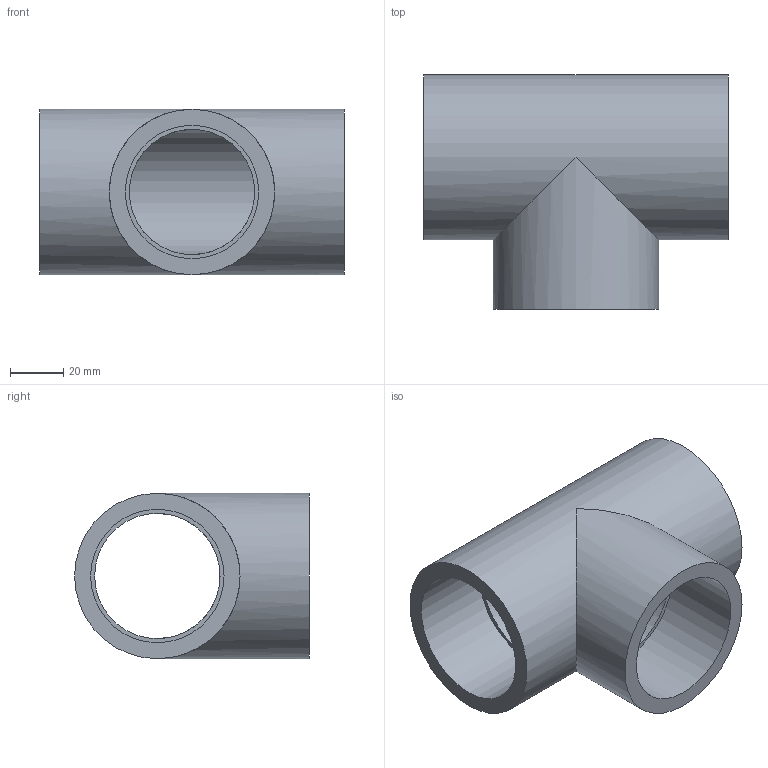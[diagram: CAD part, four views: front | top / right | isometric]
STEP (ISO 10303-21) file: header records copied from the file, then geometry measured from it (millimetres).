
FILE_DESCRIPTION(/* description */ ('PVC ti a 90° incollaggio metrico'),/* implementation_level */ '2;1');
FILE_NAME(/* name */ 'C:\Users\POLYPIPE\Desktop\DATASET INVENTOR\LIBRERIA EFFAST\RACCORDI 3DxWEB\RDR\3D_RDRTID\3D_RDRTID0500.stp',/* time_stamp */ '2018-01-19T15:38:13+01:00',/* author */ ('POLYPIPE'),/* organization */ ('Polypipe Italia s.r.l.'),/* preprocessor_version */ 'ST-DEVELOPER v16.1',/* originating_system */ 'Autodesk Inventor 2016',/* authorisation */ '');
FILE_SCHEMA (('CONFIG_CONTROL_DESIGN'));
Length unit declared in the file: millimetre
Products named in the file (1): 3D_RDRTID
Bounding box: 114 x 88 x 62 mm (x, y, z)
Volume: 153495.3 mm3; surface area: 51179 mm2
Topology: 1 solids, 1 shells, 13 faces, 25 edges, 18 vertices
Faces by surface type: cylinder 7, plane 6
Full cylindrical faces by diameter (mm): 47 x2, 50 x3, 62 x2
Entity records: 326 total; most frequent: DIRECTION 60, CARTESIAN_POINT 46, ORIENTED_EDGE 32, AXIS2_PLACEMENT_3D 30, EDGE_LOOP 28, VERTEX_POINT 16, EDGE_CURVE 16, FACE_BOUND 15
